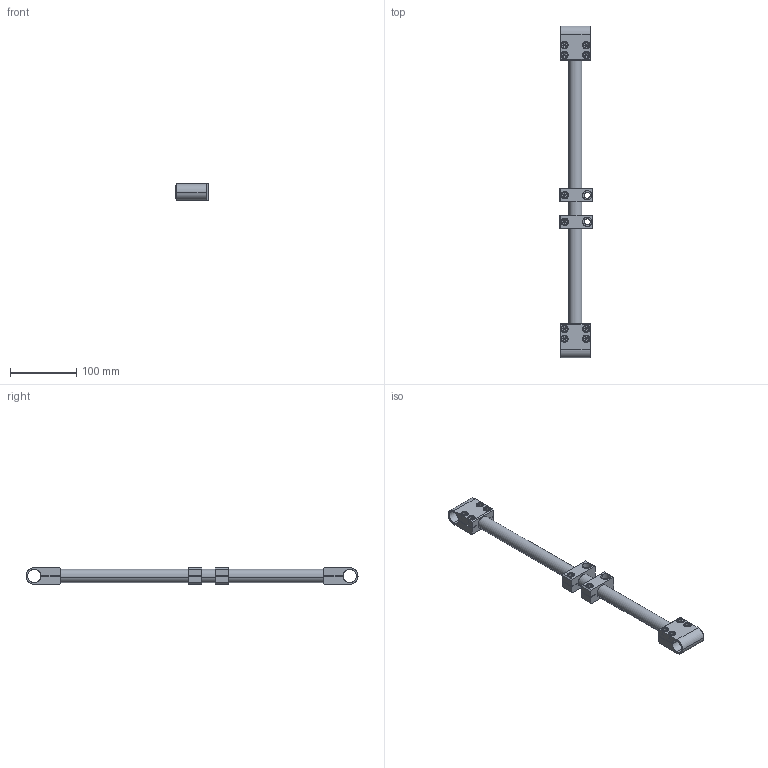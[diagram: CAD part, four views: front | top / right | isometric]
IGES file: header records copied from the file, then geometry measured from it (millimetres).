
Start section: SolidWorks IGES file using analytic representation for surfaces
Global section: file name: E:\EFCKishi\基礎フレーム\EFCK2500\IGES\EFCK-2501.IGS; native system: SolidWorks 2006 by SolidWorks Corporation; preprocessor: SolidWorks 2006 by SolidWorks Corporation; author: CAD58; date: 080913.085354; units: millimetre
Bounding box: 50 x 501 x 25 mm (x, y, z)
Surface area: 108295.1 mm2 (no closed solid volume)
Topology: 0 solids, 0 shells, 374 faces, 5476 edges, 5416 vertices
Faces by surface type: bspline 220, revolution 154
